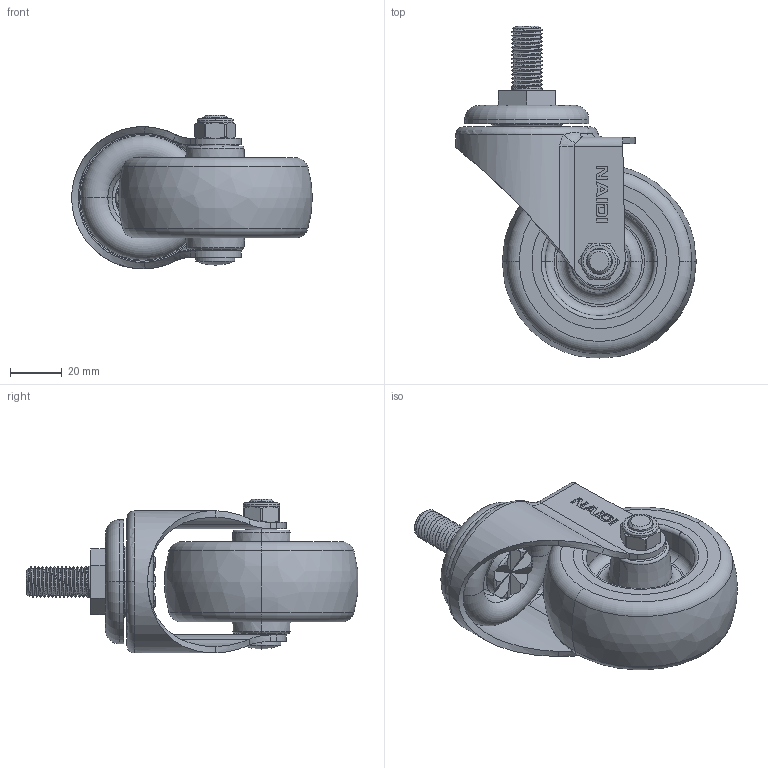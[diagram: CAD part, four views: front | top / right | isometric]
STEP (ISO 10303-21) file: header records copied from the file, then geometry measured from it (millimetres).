
FILE_DESCRIPTION((''),'2;1');
FILE_NAME('C52133_ASM','2024-05-22T',('Lenovo'),(''),'PRO/ENGINEER BY PARAMETRIC TECHNOLOGY CORPORATION, 2010280','PRO/ENGINEER BY PARAMETRIC TECHNOLOGY CORPORATION, 2010280','');
FILE_SCHEMA(('CONFIG_CONTROL_DESIGN'));
Length unit declared in the file: millimetre
Products named in the file (9): 550-23M12X25; 500-36; C5210-211; C5213-311; C523-964; 500-54; 570-33; 570-34; C52133_ASM
Assembly tree (10 placements, depth 2):
  C52133_ASM
    550-23M12X25
    500-36  x2
    C5210-211  x2
    C5213-311
    C523-964
    500-54
    570-33
    570-34
Bounding box: 93 x 128.3 x 59.49 mm (x, y, z)
Volume: 86123.3 mm3; surface area: 67942.3 mm2
Topology: 10 solids, 11 shells, 359 faces, 842 edges, 521 vertices
Faces by surface type: plane 130, cylinder 108, torus 54, cone 38, bspline 27, sphere 2
Entity records: 14842 total; most frequent: CARTESIAN_POINT 7119, ORIENTED_EDGE 1572, DIRECTION 1549, EDGE_CURVE 786, AXIS2_PLACEMENT_3D 599, VERTEX_POINT 489, EDGE_LOOP 369, VECTOR 351
